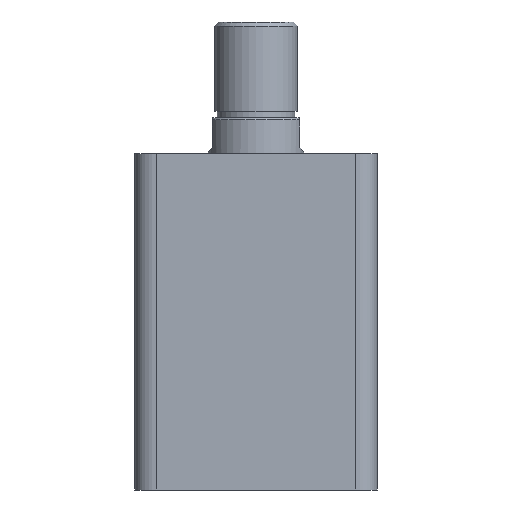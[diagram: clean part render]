
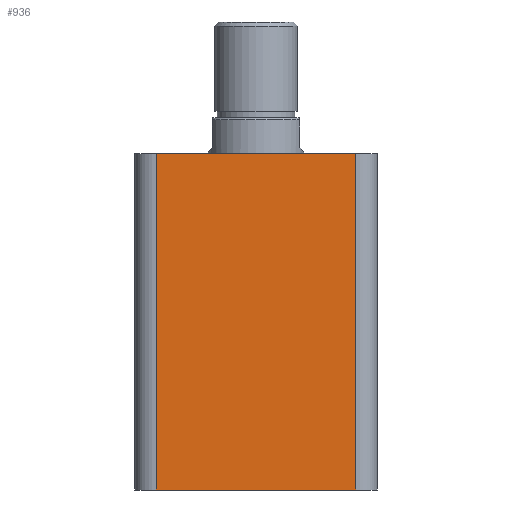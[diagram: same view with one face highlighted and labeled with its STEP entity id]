
A CAD part, front view. The second image highlights one B-rep face of the part: STEP entity #936.
In plain terms, the highlighted planar face has unit normal (0, -1, 0).
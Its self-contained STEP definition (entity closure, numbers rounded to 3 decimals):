
#136 = ORIENTED_EDGE ( 'NONE', *, *, #2522, .T. ) ;
#137 = ORIENTED_EDGE ( 'NONE', *, *, #2523, .T. ) ;
#138 = ORIENTED_EDGE ( 'NONE', *, *, #2524, .F. ) ;
#139 = ORIENTED_EDGE ( 'NONE', *, *, #2525, .T. ) ;
#437 = CARTESIAN_POINT ( 'NONE',  ( 47., -57., 158. ) ) ;
#447 = CARTESIAN_POINT ( 'NONE',  ( -57., -57., 0. ) ) ;
#448 = DIRECTION ( 'NONE',  ( 1., 0., 0. ) ) ;
#449 = DIRECTION ( 'NONE',  ( 0., 0., 1. ) ) ;
#450 = CARTESIAN_POINT ( 'NONE',  ( -57., -57., 158. ) ) ;
#451 = DIRECTION ( 'NONE',  ( 1., 0., 0. ) ) ;
#452 = CARTESIAN_POINT ( 'NONE',  ( -47., -57., 158. ) ) ;
#453 = DIRECTION ( 'NONE',  ( 0., 0., -1. ) ) ;
#474 = CARTESIAN_POINT ( 'NONE',  ( 47., -57., 0. ) ) ;
#479 = CARTESIAN_POINT ( 'NONE',  ( -47., -57., 158. ) ) ;
#481 = CARTESIAN_POINT ( 'NONE',  ( 47., -57., 158. ) ) ;
#936 = ADVANCED_FACE ( 'NONE', ( #1278 ), #1503, .F. ) ;
#1278 = FACE_OUTER_BOUND ( 'NONE', #2676, .T. ) ;
#1353 = LINE ( 'NONE', #437, #1364 ) ;
#1359 = LINE ( 'NONE', #447, #1362 ) ;
#1362 = VECTOR ( 'NONE', #448, 1000. ) ;
#1363 = LINE ( 'NONE', #450, #1366 ) ;
#1364 = VECTOR ( 'NONE', #449, 1000. ) ;
#1365 = LINE ( 'NONE', #452, #1368 ) ;
#1366 = VECTOR ( 'NONE', #451, 1000. ) ;
#1368 = VECTOR ( 'NONE', #453, 1000. ) ;
#1501 = CARTESIAN_POINT ( 'NONE',  ( -57., -57., 158. ) ) ;
#1503 = PLANE ( 'NONE',  #2326 ) ;
#1505 = DIRECTION ( 'NONE',  ( 0., 1., 0. ) ) ;
#1506 = DIRECTION ( 'NONE',  ( 0., 0., 1. ) ) ;
#1634 = CARTESIAN_POINT ( 'NONE',  ( -47., -57., 0. ) ) ;
#1976 = VERTEX_POINT ( 'NONE', #1634 ) ;
#2326 = AXIS2_PLACEMENT_3D ( 'NONE', #1501, #1505, #1506 ) ;
#2522 = EDGE_CURVE ( 'NONE', #1976, #2539, #1359, .T. ) ;
#2523 = EDGE_CURVE ( 'NONE', #2539, #2546, #1353, .T. ) ;
#2524 = EDGE_CURVE ( 'NONE', #2544, #2546, #1363, .T. ) ;
#2525 = EDGE_CURVE ( 'NONE', #2544, #1976, #1365, .T. ) ;
#2539 = VERTEX_POINT ( 'NONE', #474 ) ;
#2544 = VERTEX_POINT ( 'NONE', #479 ) ;
#2546 = VERTEX_POINT ( 'NONE', #481 ) ;
#2676 = EDGE_LOOP ( 'NONE', ( #136, #137, #138, #139 ) ) ;
